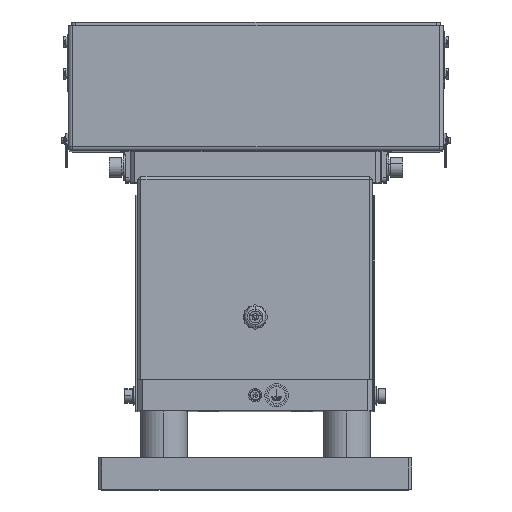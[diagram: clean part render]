
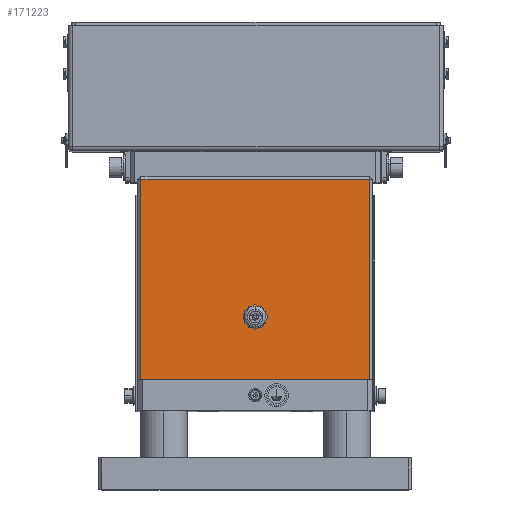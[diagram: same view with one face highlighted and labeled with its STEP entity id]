
A CAD part, top view. The second image highlights one B-rep face of the part: STEP entity #171223.
In plain terms, the highlighted planar face has unit normal (0, 0, 1).
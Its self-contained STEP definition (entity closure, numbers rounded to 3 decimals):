
#5688 = CARTESIAN_POINT ( 'NONE',  ( 73., 70., 175. ) ) ;
#14348 = ORIENTED_EDGE ( 'NONE', *, *, #122374, .F. ) ;
#16890 = LINE ( 'NONE', #122510, #21404 ) ;
#20975 = EDGE_CURVE ( 'NONE', #137105, #153961, #181464, .T. ) ;
#21404 = VECTOR ( 'NONE', #136874, 1000. ) ;
#22076 = EDGE_LOOP ( 'NONE', ( #180110, #164995 ) ) ;
#23130 = AXIS2_PLACEMENT_3D ( 'NONE', #164336, #81261, #180566 ) ;
#30329 = VERTEX_POINT ( 'NONE', #118138 ) ;
#32676 = CARTESIAN_POINT ( 'NONE',  ( -73., 70., 175. ) ) ;
#35061 = FACE_BOUND ( 'NONE', #22076, .T. ) ;
#36482 = VECTOR ( 'NONE', #41570, 1000. ) ;
#37553 = AXIS2_PLACEMENT_3D ( 'NONE', #45447, #132219, #162101 ) ;
#41570 = DIRECTION ( 'NONE',  ( -1., 0., 0. ) ) ;
#43451 = CARTESIAN_POINT ( 'NONE',  ( 75., 70., 175. ) ) ;
#45447 = CARTESIAN_POINT ( 'NONE',  ( 75., 70., 175. ) ) ;
#48816 = VERTEX_POINT ( 'NONE', #144807 ) ;
#49780 = EDGE_LOOP ( 'NONE', ( #14348, #109992, #97404, #61338 ) ) ;
#61338 = ORIENTED_EDGE ( 'NONE', *, *, #95517, .T. ) ;
#73056 = FACE_OUTER_BOUND ( 'NONE', #49780, .T. ) ;
#74935 = DIRECTION ( 'NONE',  ( 0., 1., 0. ) ) ;
#81261 = DIRECTION ( 'NONE',  ( 0., 0., 1. ) ) ;
#95373 = VERTEX_POINT ( 'NONE', #32676 ) ;
#95517 = EDGE_CURVE ( 'NONE', #103191, #95373, #16890, .T. ) ;
#97404 = ORIENTED_EDGE ( 'NONE', *, *, #157280, .T. ) ;
#103191 = VERTEX_POINT ( 'NONE', #159323 ) ;
#109992 = ORIENTED_EDGE ( 'NONE', *, *, #20975, .T. ) ;
#116936 = LINE ( 'NONE', #43451, #36482 ) ;
#118138 = CARTESIAN_POINT ( 'NONE',  ( 0., 115.25, 175. ) ) ;
#122188 = CARTESIAN_POINT ( 'NONE',  ( 73., 198., 175. ) ) ;
#122374 = EDGE_CURVE ( 'NONE', #137105, #95373, #116936, .T. ) ;
#122510 = CARTESIAN_POINT ( 'NONE',  ( -73., 70., 175. ) ) ;
#123685 = CIRCLE ( 'NONE', #172768, 5.25 ) ;
#125717 = DIRECTION ( 'NONE',  ( 0., 1., 0. ) ) ;
#132219 = DIRECTION ( 'NONE',  ( 0., 0., -1. ) ) ;
#136874 = DIRECTION ( 'NONE',  ( 0., -1., 0. ) ) ;
#137105 = VERTEX_POINT ( 'NONE', #5688 ) ;
#137356 = LINE ( 'NONE', #180581, #175304 ) ;
#139449 = CARTESIAN_POINT ( 'NONE',  ( 0., 110., 175. ) ) ;
#141759 = DIRECTION ( 'NONE',  ( -1., 0., 0. ) ) ;
#142816 = CIRCLE ( 'NONE', #23130, 5.25 ) ;
#144807 = CARTESIAN_POINT ( 'NONE',  ( 0., 104.75, 175. ) ) ;
#147848 = CARTESIAN_POINT ( 'NONE',  ( 73., 70., 175. ) ) ;
#153961 = VERTEX_POINT ( 'NONE', #122188 ) ;
#157280 = EDGE_CURVE ( 'NONE', #153961, #103191, #137356, .T. ) ;
#159323 = CARTESIAN_POINT ( 'NONE',  ( -73., 198., 175. ) ) ;
#160254 = PLANE ( 'NONE',  #37553 ) ;
#162101 = DIRECTION ( 'NONE',  ( 0., -1., 0. ) ) ;
#164336 = CARTESIAN_POINT ( 'NONE',  ( 0., 110., 175. ) ) ;
#164995 = ORIENTED_EDGE ( 'NONE', *, *, #175544, .F. ) ;
#170283 = EDGE_CURVE ( 'NONE', #30329, #48816, #142816, .T. ) ;
#171223 = ADVANCED_FACE ( 'NONE', ( #35061, #73056 ), #160254, .F. ) ;
#172768 = AXIS2_PLACEMENT_3D ( 'NONE', #139449, #182538, #125717 ) ;
#175304 = VECTOR ( 'NONE', #141759, 1000. ) ;
#175544 = EDGE_CURVE ( 'NONE', #48816, #30329, #123685, .T. ) ;
#180110 = ORIENTED_EDGE ( 'NONE', *, *, #170283, .F. ) ;
#180566 = DIRECTION ( 'NONE',  ( 0., 1., 0. ) ) ;
#180581 = CARTESIAN_POINT ( 'NONE',  ( 75., 198., 175. ) ) ;
#181464 = LINE ( 'NONE', #147848, #183803 ) ;
#182538 = DIRECTION ( 'NONE',  ( 0., 0., 1. ) ) ;
#183803 = VECTOR ( 'NONE', #74935, 1000. ) ;
